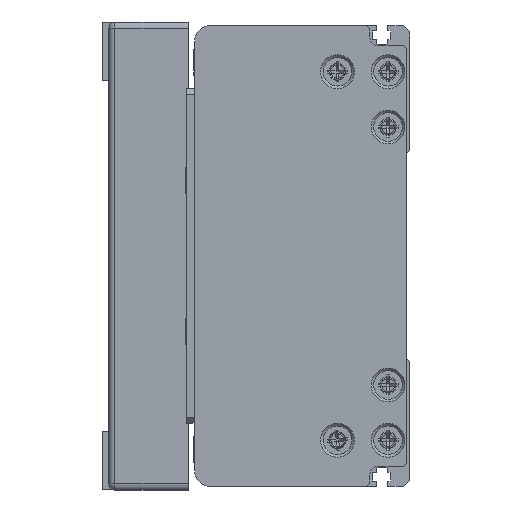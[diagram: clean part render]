
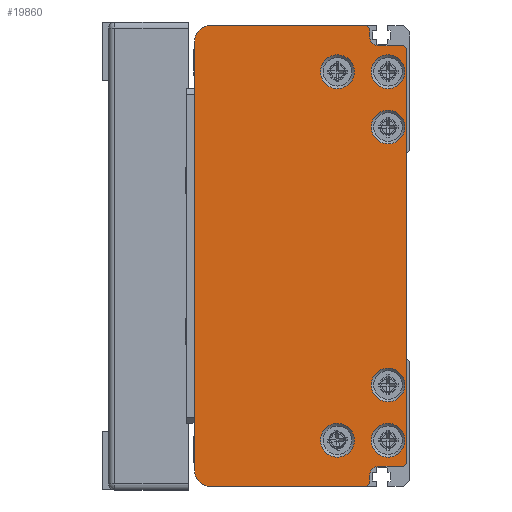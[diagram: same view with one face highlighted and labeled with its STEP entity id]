
A CAD part, left-side view. The second image highlights one B-rep face of the part: STEP entity #19860.
In plain terms, the highlighted planar face has unit normal (-1, 0, 0) as drawn and (0, 0, -1) by its records, which use the part's own axes.
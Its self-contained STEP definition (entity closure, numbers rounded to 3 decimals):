
#934=LINE('',#28722,#2599);
#935=LINE('',#28726,#2600);
#936=LINE('',#28728,#2601);
#937=LINE('',#28730,#2602);
#938=LINE('',#28734,#2603);
#939=LINE('',#28736,#2604);
#940=LINE('',#28738,#2605);
#941=LINE('',#28740,#2606);
#942=LINE('',#28742,#2607);
#943=LINE('',#28746,#2608);
#944=LINE('',#28748,#2609);
#945=LINE('',#28750,#2610);
#2599=VECTOR('',#23323,140.);
#2600=VECTOR('',#23326,51.);
#2601=VECTOR('',#23327,1.414);
#2602=VECTOR('',#23328,2.5);
#2603=VECTOR('',#23331,8.);
#2604=VECTOR('',#23332,1.414);
#2605=VECTOR('',#23333,135.);
#2606=VECTOR('',#23334,1.414);
#2607=VECTOR('',#23335,8.);
#2608=VECTOR('',#23338,2.5);
#2609=VECTOR('',#23339,1.414);
#2610=VECTOR('',#23340,51.);
#4217=PLANE('',#21226);
#4846=FACE_BOUND('',#6688,.T.);
#4847=FACE_BOUND('',#6689,.T.);
#4848=FACE_BOUND('',#6690,.T.);
#4849=FACE_BOUND('',#6691,.T.);
#4850=FACE_BOUND('',#6692,.T.);
#4851=FACE_BOUND('',#6693,.T.);
#5405=FACE_OUTER_BOUND('',#6687,.T.);
#6687=EDGE_LOOP('',(#13947,#13948,#13949,#13950,#13951,#13952,#13953,#13954,
#13955,#13956,#13957,#13958,#13959,#13960,#13961,#13962));
#6688=EDGE_LOOP('',(#13963));
#6689=EDGE_LOOP('',(#13964));
#6690=EDGE_LOOP('',(#13965));
#6691=EDGE_LOOP('',(#13966));
#6692=EDGE_LOOP('',(#13967));
#6693=EDGE_LOOP('',(#13968));
#8199=CIRCLE('',#21227,5.);
#8200=CIRCLE('',#21228,3.);
#8201=CIRCLE('',#21229,3.);
#8202=CIRCLE('',#21230,5.);
#8203=CIRCLE('',#21231,5.5);
#8204=CIRCLE('',#21232,5.5);
#8205=CIRCLE('',#21233,5.5);
#8206=CIRCLE('',#21234,5.5);
#8207=CIRCLE('',#21235,5.5);
#8208=CIRCLE('',#21236,5.5);
#8891=VERTEX_POINT('',#28720);
#8892=VERTEX_POINT('',#28721);
#8893=VERTEX_POINT('',#28723);
#8894=VERTEX_POINT('',#28725);
#8895=VERTEX_POINT('',#28727);
#8896=VERTEX_POINT('',#28729);
#8897=VERTEX_POINT('',#28731);
#8898=VERTEX_POINT('',#28733);
#8899=VERTEX_POINT('',#28735);
#8900=VERTEX_POINT('',#28737);
#8901=VERTEX_POINT('',#28739);
#8902=VERTEX_POINT('',#28741);
#8903=VERTEX_POINT('',#28743);
#8904=VERTEX_POINT('',#28745);
#8905=VERTEX_POINT('',#28747);
#8906=VERTEX_POINT('',#28749);
#8907=VERTEX_POINT('',#28752);
#8908=VERTEX_POINT('',#28754);
#8909=VERTEX_POINT('',#28756);
#8910=VERTEX_POINT('',#28758);
#8911=VERTEX_POINT('',#28760);
#8912=VERTEX_POINT('',#28762);
#10927=EDGE_CURVE('',#8891,#8892,#934,.T.);
#10928=EDGE_CURVE('',#8892,#8893,#8199,.T.);
#10929=EDGE_CURVE('',#8893,#8894,#935,.T.);
#10930=EDGE_CURVE('',#8894,#8895,#936,.T.);
#10931=EDGE_CURVE('',#8895,#8896,#937,.T.);
#10932=EDGE_CURVE('',#8896,#8897,#8200,.T.);
#10933=EDGE_CURVE('',#8897,#8898,#938,.T.);
#10934=EDGE_CURVE('',#8898,#8899,#939,.T.);
#10935=EDGE_CURVE('',#8899,#8900,#940,.T.);
#10936=EDGE_CURVE('',#8900,#8901,#941,.T.);
#10937=EDGE_CURVE('',#8901,#8902,#942,.T.);
#10938=EDGE_CURVE('',#8902,#8903,#8201,.T.);
#10939=EDGE_CURVE('',#8903,#8904,#943,.T.);
#10940=EDGE_CURVE('',#8904,#8905,#944,.T.);
#10941=EDGE_CURVE('',#8905,#8906,#945,.T.);
#10942=EDGE_CURVE('',#8906,#8891,#8202,.T.);
#10943=EDGE_CURVE('',#8907,#8907,#8203,.T.);
#10944=EDGE_CURVE('',#8908,#8908,#8204,.T.);
#10945=EDGE_CURVE('',#8909,#8909,#8205,.T.);
#10946=EDGE_CURVE('',#8910,#8910,#8206,.T.);
#10947=EDGE_CURVE('',#8911,#8911,#8207,.T.);
#10948=EDGE_CURVE('',#8912,#8912,#8208,.T.);
#13947=ORIENTED_EDGE('',*,*,#10927,.T.);
#13948=ORIENTED_EDGE('',*,*,#10928,.T.);
#13949=ORIENTED_EDGE('',*,*,#10929,.T.);
#13950=ORIENTED_EDGE('',*,*,#10930,.T.);
#13951=ORIENTED_EDGE('',*,*,#10931,.T.);
#13952=ORIENTED_EDGE('',*,*,#10932,.T.);
#13953=ORIENTED_EDGE('',*,*,#10933,.T.);
#13954=ORIENTED_EDGE('',*,*,#10934,.T.);
#13955=ORIENTED_EDGE('',*,*,#10935,.T.);
#13956=ORIENTED_EDGE('',*,*,#10936,.T.);
#13957=ORIENTED_EDGE('',*,*,#10937,.T.);
#13958=ORIENTED_EDGE('',*,*,#10938,.T.);
#13959=ORIENTED_EDGE('',*,*,#10939,.T.);
#13960=ORIENTED_EDGE('',*,*,#10940,.T.);
#13961=ORIENTED_EDGE('',*,*,#10941,.T.);
#13962=ORIENTED_EDGE('',*,*,#10942,.T.);
#13963=ORIENTED_EDGE('',*,*,#10943,.T.);
#13964=ORIENTED_EDGE('',*,*,#10944,.T.);
#13965=ORIENTED_EDGE('',*,*,#10945,.T.);
#13966=ORIENTED_EDGE('',*,*,#10946,.T.);
#13967=ORIENTED_EDGE('',*,*,#10947,.T.);
#13968=ORIENTED_EDGE('',*,*,#10948,.T.);
#19860=ADVANCED_FACE('',(#5405,#4846,#4847,#4848,#4849,#4850,#4851),#4217,
 .F.);
#21226=AXIS2_PLACEMENT_3D('',#28719,#23321,#23322);
#21227=AXIS2_PLACEMENT_3D('',#28724,#23324,#23325);
#21228=AXIS2_PLACEMENT_3D('',#28732,#23329,#23330);
#21229=AXIS2_PLACEMENT_3D('',#28744,#23336,#23337);
#21230=AXIS2_PLACEMENT_3D('',#28751,#23341,#23342);
#21231=AXIS2_PLACEMENT_3D('',#28753,#23343,#23344);
#21232=AXIS2_PLACEMENT_3D('',#28755,#23345,#23346);
#21233=AXIS2_PLACEMENT_3D('',#28757,#23347,#23348);
#21234=AXIS2_PLACEMENT_3D('',#28759,#23349,#23350);
#21235=AXIS2_PLACEMENT_3D('',#28761,#23351,#23352);
#21236=AXIS2_PLACEMENT_3D('',#28763,#23353,#23354);
#23321=DIRECTION('center_axis',(0.,0.,
1.));
#23322=DIRECTION('ref_axis',(1.,0.,0.));
#23323=DIRECTION('',(1.,0.,0.));
#23324=DIRECTION('center_axis',(0.,0.,
-1.));
#23325=DIRECTION('ref_axis',(-1.,0.,0.));
#23326=DIRECTION('',(0.,-1.,0.));
#23327=DIRECTION('',(-0.707,-0.707,0.));
#23328=DIRECTION('',(-1.,0.,0.));
#23329=DIRECTION('center_axis',(0.,0.,
1.));
#23330=DIRECTION('ref_axis',(0.,1.,0.));
#23331=DIRECTION('',(0.,-1.,0.));
#23332=DIRECTION('',(-0.707,-0.707,0.));
#23333=DIRECTION('',(-1.,0.,0.));
#23334=DIRECTION('',(-0.707,0.707,0.));
#23335=DIRECTION('',(0.,1.,0.));
#23336=DIRECTION('center_axis',(0.,0.,
1.));
#23337=DIRECTION('ref_axis',(1.,0.,0.));
#23338=DIRECTION('',(-1.,0.,0.));
#23339=DIRECTION('',(-0.707,0.707,0.));
#23340=DIRECTION('',(0.,1.,0.));
#23341=DIRECTION('center_axis',(0.,0.,
-1.));
#23342=DIRECTION('ref_axis',(0.,-1.,0.));
#23343=DIRECTION('center_axis',(0.,0.,
1.));
#23344=DIRECTION('ref_axis',(-1.,0.,0.));
#23345=DIRECTION('center_axis',(0.,0.,
1.));
#23346=DIRECTION('ref_axis',(-1.,0.,0.));
#23347=DIRECTION('center_axis',(0.,0.,
1.));
#23348=DIRECTION('ref_axis',(-1.,0.,0.));
#23349=DIRECTION('center_axis',(0.,0.,
1.));
#23350=DIRECTION('ref_axis',(-1.,0.,0.));
#23351=DIRECTION('center_axis',(0.,0.,
1.));
#23352=DIRECTION('ref_axis',(-1.,0.,0.));
#23353=DIRECTION('center_axis',(0.,0.,
1.));
#23354=DIRECTION('ref_axis',(-1.,0.,0.));
#28719=CARTESIAN_POINT('Origin',(0.25,38.047,-1119.));
#28720=CARTESIAN_POINT('',(-69.75,72.25,-1119.));
#28721=CARTESIAN_POINT('',(70.25,72.25,-1119.));
#28722=CARTESIAN_POINT('',(-69.75,72.25,-1119.));
#28723=CARTESIAN_POINT('',(75.25,67.25,-1119.));
#28724=CARTESIAN_POINT('Origin',(70.25,67.25,-1119.));
#28725=CARTESIAN_POINT('',(75.25,16.25,-1119.));
#28726=CARTESIAN_POINT('',(75.25,67.25,-1119.));
#28727=CARTESIAN_POINT('',(74.25,15.25,-1119.));
#28728=CARTESIAN_POINT('',(75.25,16.25,-1119.));
#28729=CARTESIAN_POINT('',(71.75,15.25,-1119.));
#28730=CARTESIAN_POINT('',(74.25,15.25,-1119.));
#28731=CARTESIAN_POINT('',(68.75,12.25,-1119.));
#28732=CARTESIAN_POINT('Origin',(71.75,12.25,-1119.));
#28733=CARTESIAN_POINT('',(68.75,4.25,-1119.));
#28734=CARTESIAN_POINT('',(68.75,12.25,-1119.));
#28735=CARTESIAN_POINT('',(67.75,3.25,-1119.));
#28736=CARTESIAN_POINT('',(68.75,4.25,-1119.));
#28737=CARTESIAN_POINT('',(-67.25,3.25,-1119.));
#28738=CARTESIAN_POINT('',(67.75,3.25,-1119.));
#28739=CARTESIAN_POINT('',(-68.25,4.25,-1119.));
#28740=CARTESIAN_POINT('',(-67.25,3.25,-1119.));
#28741=CARTESIAN_POINT('',(-68.25,12.25,-1119.));
#28742=CARTESIAN_POINT('',(-68.25,4.25,-1119.));
#28743=CARTESIAN_POINT('',(-71.25,15.25,-1119.));
#28744=CARTESIAN_POINT('Origin',(-71.25,12.25,-1119.));
#28745=CARTESIAN_POINT('',(-73.75,15.25,-1119.));
#28746=CARTESIAN_POINT('',(-71.25,15.25,-1119.));
#28747=CARTESIAN_POINT('',(-74.75,16.25,-1119.));
#28748=CARTESIAN_POINT('',(-73.75,15.25,-1119.));
#28749=CARTESIAN_POINT('',(-74.75,67.25,-1119.));
#28750=CARTESIAN_POINT('',(-74.75,16.25,-1119.));
#28751=CARTESIAN_POINT('Origin',(-69.75,67.25,-1119.));
#28752=CARTESIAN_POINT('',(-47.25,9.25,-1119.));
#28753=CARTESIAN_POINT('Origin',(-41.75,9.25,-1119.));
#28754=CARTESIAN_POINT('',(36.75,9.25,-1119.));
#28755=CARTESIAN_POINT('Origin',(42.25,9.25,-1119.));
#28756=CARTESIAN_POINT('',(-65.25,25.75,-1119.));
#28757=CARTESIAN_POINT('Origin',(-59.75,25.75,-1119.));
#28758=CARTESIAN_POINT('',(54.75,25.75,-1119.));
#28759=CARTESIAN_POINT('Origin',(60.25,25.75,-1119.));
#28760=CARTESIAN_POINT('',(-65.25,9.25,-1119.));
#28761=CARTESIAN_POINT('Origin',(-59.75,9.25,-1119.));
#28762=CARTESIAN_POINT('',(54.75,9.25,-1119.));
#28763=CARTESIAN_POINT('Origin',(60.25,9.25,-1119.));
